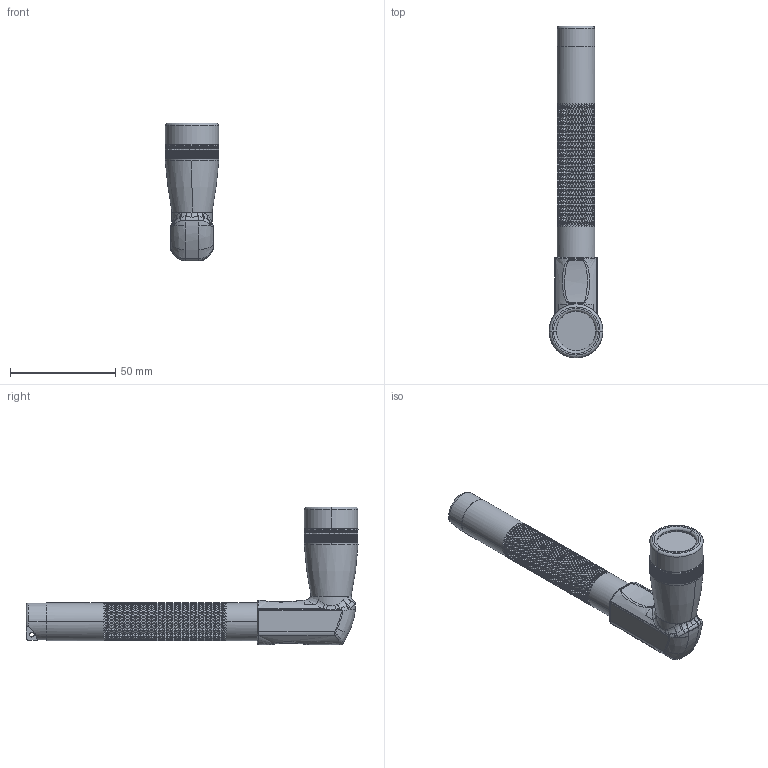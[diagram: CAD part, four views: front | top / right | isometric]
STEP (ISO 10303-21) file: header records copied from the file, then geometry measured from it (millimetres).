
FILE_DESCRIPTION((''),'2;1');
FILE_NAME('CNC_MAGLIGHT_ASM','2021-03-04T05:59:10',('Tim'),(''),'CREO PARAMETRIC BY PTC INC, 2020053','CREO PARAMETRIC BY PTC INC, 2020053','');
FILE_SCHEMA(('CONFIG_CONTROL_DESIGN'));
Length unit declared in the file: inch
Products named in the file (25): LBL014_A; 99142A350_BLACK-FINISH_STEEL_IN; MAGLIGHT_TOP2WEDGE22; CONTACT2_LONG_RT; CONTACT2_LONG_LT; 95133A258_BLACK_NYLON_82_DEG_FL; TOP_PLUNGER_ASM; MAGLIGHT_BODY; MAGLIGHT_BATEND; MAGLIGHT_PLASTIC1; MAGLIGHT_PLASTIC2; BATTERY-AA_1-5V; ORING; MAGLIGHT_BOTTOM2WEDGE; CONTACT2_SHORT_LT; CONTACT2_SHORT_RT; BOTTOM_WEDGE_ASSY_ASM; BASE_ASSY_ASM; MAGLIGHT_LED; MAGLIGHT_REFLECTOR; MAGLIGHT_BELL; MAGLIGHT_LENZ; MAGLIGHT_CAP; BELL_ASM; CNC_MAGLIGHT_ASM
Assembly tree (28 placements, depth 4):
  CNC_MAGLIGHT_ASM
    LBL014_A
    99142A350_BLACK-FINISH_STEEL_IN
    TOP_PLUNGER_ASM
      MAGLIGHT_TOP2WEDGE22
      CONTACT2_LONG_RT
      CONTACT2_LONG_LT
      95133A258_BLACK_NYLON_82_DEG_FL  x2
    BASE_ASSY_ASM
      MAGLIGHT_BODY
      MAGLIGHT_BATEND
      MAGLIGHT_PLASTIC1
      MAGLIGHT_PLASTIC2
      BATTERY-AA_1-5V  x2
      ORING
      BOTTOM_WEDGE_ASSY_ASM
        MAGLIGHT_BOTTOM2WEDGE
        CONTACT2_SHORT_LT
        CONTACT2_SHORT_RT
        95133A258_BLACK_NYLON_82_DEG_FL
    MAGLIGHT_LED
    MAGLIGHT_REFLECTOR
    BELL_ASM
      MAGLIGHT_BELL
      MAGLIGHT_REFLECTOR
      MAGLIGHT_LENZ
      MAGLIGHT_CAP
Bounding box: 25.55 x 157.81 x 65.52 mm (x, y, z)
Volume: 56580.4 mm3; surface area: 50002.5 mm2
Topology: 24 solids, 27 shells, 11170 faces, 23637 edges, 12772 vertices
Faces by surface type: bspline 7188, cylinder 2298, plane 1454, torus 97, cone 66, sphere 26, extrusion 23, revolution 18
Full cylindrical faces by diameter (mm): 14.52 x2
Entity records: 649576 total; most frequent: CARTESIAN_POINT 481050, ORIENTED_EDGE 45446, EDGE_CURVE 22729, B_SPLINE_CURVE_WITH_KNOTS 18387, DIRECTION 13005, VERTEX_POINT 12208, EDGE_LOOP 11115, FACE_OUTER_BOUND 10815
